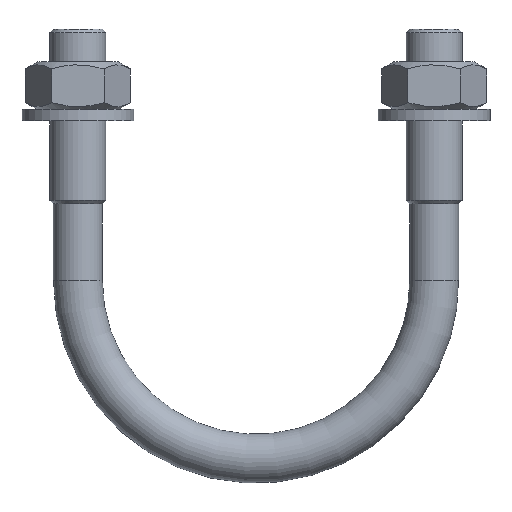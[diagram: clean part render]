
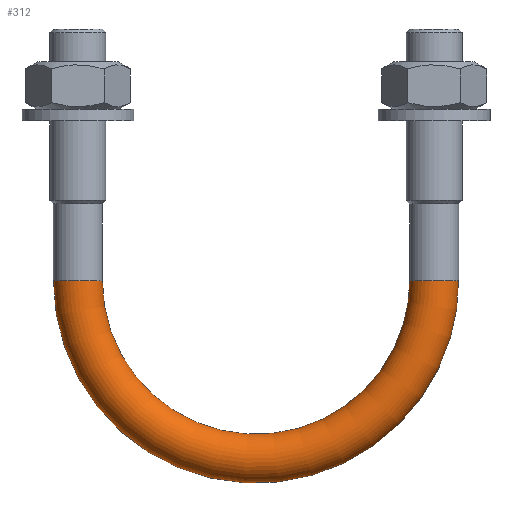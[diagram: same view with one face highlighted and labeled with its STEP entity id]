
A CAD part, front view. The second image highlights one B-rep face of the part: STEP entity #312.
In plain terms, the highlighted toroidal (fillet/blend) face has major radius 25.5 mm and minor radius 3.5 mm.
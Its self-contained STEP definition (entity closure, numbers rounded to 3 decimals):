
#269=CARTESIAN_POINT('',(-25.5,-3.5,0.));
#270=VERTEX_POINT('',#269);
#271=CARTESIAN_POINT('',(-25.5,0.0,0.0));
#272=DIRECTION('',(0.0,0.0,-1.0));
#273=DIRECTION('',(-1.0,0.0,0.0));
#274=AXIS2_PLACEMENT_3D('',#271,#272,#273);
#275=CIRCLE('',#274,3.5);
#276=EDGE_CURVE('',#270,#270,#275,.T.);
#289=CARTESIAN_POINT('',(29.,0.,0.));
#290=VERTEX_POINT('',#289);
#291=CARTESIAN_POINT('',(25.5,0.0,0.));
#292=DIRECTION('',(0.0,0.0,-1.0));
#293=DIRECTION('',(1.0,0.0,0.0));
#294=AXIS2_PLACEMENT_3D('',#291,#292,#293);
#295=CIRCLE('',#294,3.5);
#296=EDGE_CURVE('',#290,#290,#295,.T.);
#301=CARTESIAN_POINT('',(0.0,0.0,0.0));
#302=DIRECTION('',(0.0,-1.0,0.0));
#303=DIRECTION('',(0.0,0.0,-1.0));
#304=AXIS2_PLACEMENT_3D('',#301,#302,#303);
#305=TOROIDAL_SURFACE('',#304,25.5,3.5);
#306=ORIENTED_EDGE('',*,*,#296,.T.);
#307=EDGE_LOOP('',(#306));
#308=FACE_OUTER_BOUND('',#307,.T.);
#309=ORIENTED_EDGE('',*,*,#276,.T.);
#310=EDGE_LOOP('',(#309));
#311=FACE_BOUND('',#310,.T.);
#312=ADVANCED_FACE('',(#308,#311),#305,.T.);
